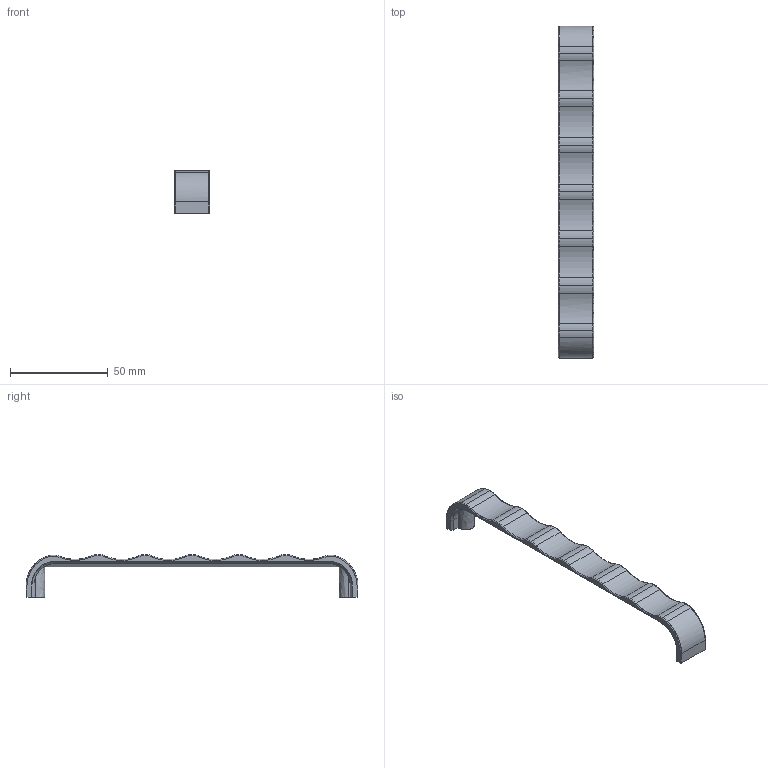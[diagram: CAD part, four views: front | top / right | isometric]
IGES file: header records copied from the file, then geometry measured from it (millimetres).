
Start section: C
Global section: file name: 8222.igs; native system: By Siemens PLM Incorporated; preprocessor: XPlus GENERIC/IGES 16.0.42; author: Author; organization: Title; date: 20231115.111239; units: millimetre
Bounding box: 18 x 170 x 22 mm (x, y, z)
Surface area: 8751 mm2 (no closed solid volume)
Topology: 0 solids, 0 shells, 115 faces, 614 edges, 614 vertices
Faces by surface type: bspline 115
